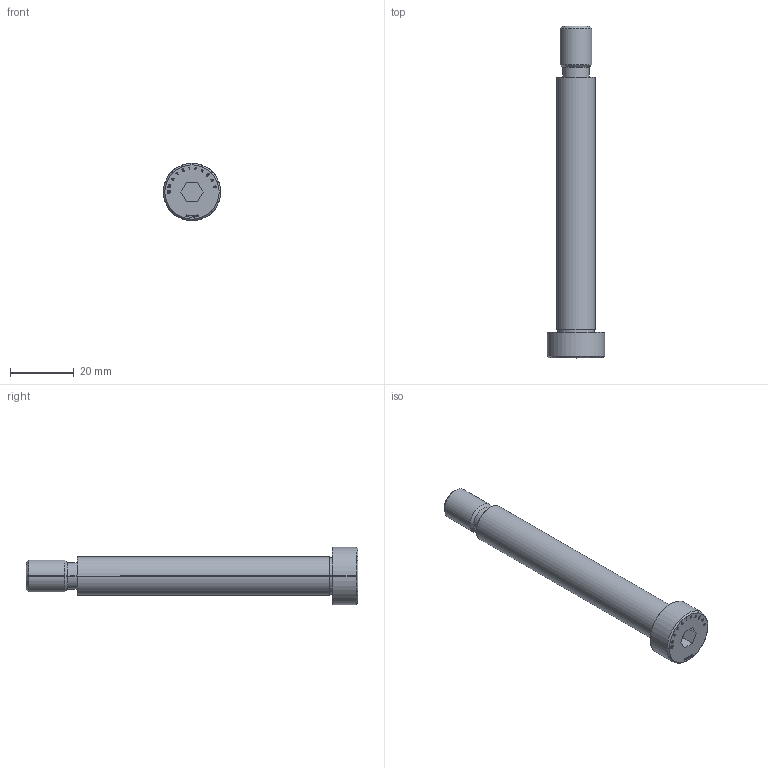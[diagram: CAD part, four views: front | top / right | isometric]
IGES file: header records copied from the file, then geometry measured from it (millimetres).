
Start section: SolidWorks IGES file using analytic representation for surfaces
Global section: file name: D:\Cleonir_arquivos\MT_15_07\Parafusos de Corpo Retificado\PRT12080.igs; native system: SolidWorks 2013; preprocessor: SolidWorks 2013; author: Cleonir; date: 130730.134435; units: millimetre
Bounding box: 18 x 104 x 18 mm (x, y, z)
Surface area: 4566.1 mm2 (no closed solid volume)
Topology: 0 solids, 0 shells, 301 faces, 2987 edges, 2987 vertices
Faces by surface type: bspline 274, revolution 27
